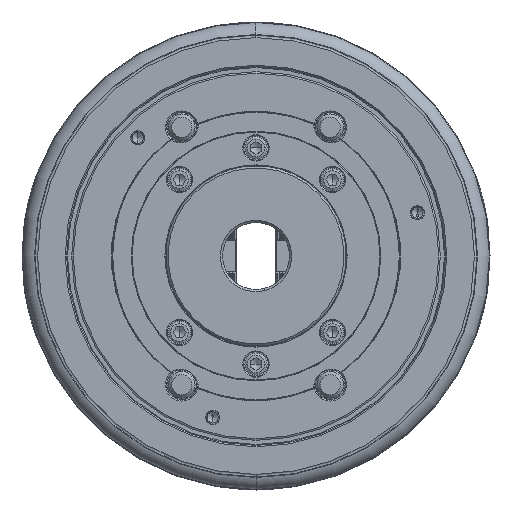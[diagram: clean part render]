
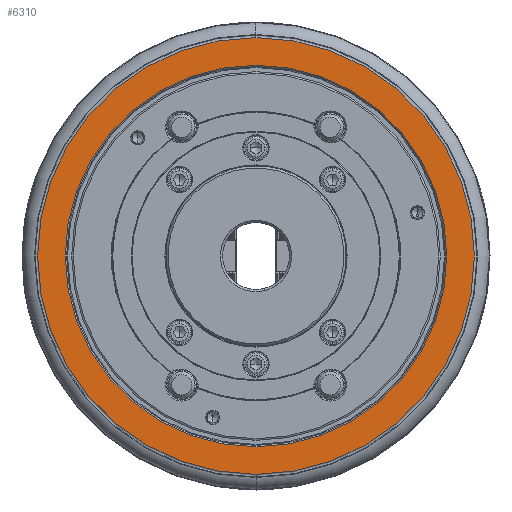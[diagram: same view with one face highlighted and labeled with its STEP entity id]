
A CAD part, left-side view. The second image highlights one B-rep face of the part: STEP entity #6310.
In plain terms, the highlighted planar face has unit normal (-1, 0, 0).
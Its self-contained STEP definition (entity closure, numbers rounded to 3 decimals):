
#6310 = ADVANCED_FACE ( 'NONE', ( #19506, #55062 ), #61520, .T. ) ;
#6592 = CARTESIAN_POINT ( 'NONE',  ( -91., 0., 0. ) ) ;
#8831 = DIRECTION ( 'NONE',  ( 0., 0., -1. ) ) ;
#10951 = EDGE_LOOP ( 'NONE', ( #62734, #59923 ) ) ;
#13460 = DIRECTION ( 'NONE',  ( -1., 0., 0. ) ) ;
#15709 = CARTESIAN_POINT ( 'NONE',  ( -91., 0., 0. ) ) ;
#17901 = DIRECTION ( 'NONE',  ( 0., 0., 1. ) ) ;
#18289 = EDGE_CURVE ( 'NONE', #32682, #24961, #43859, .T. ) ;
#18518 = CIRCLE ( 'NONE', #71435, 85.6 ) ;
#19506 = FACE_OUTER_BOUND ( 'NONE', #59340, .T. ) ;
#20838 = AXIS2_PLACEMENT_3D ( 'NONE', #44176, #13460, #17901 ) ;
#24961 = VERTEX_POINT ( 'NONE', #36379 ) ;
#28230 = DIRECTION ( 'NONE',  ( 1., 0., 0. ) ) ;
#28413 = VERTEX_POINT ( 'NONE', #49687 ) ;
#31306 = ORIENTED_EDGE ( 'NONE', *, *, #18289, .F. ) ;
#31775 = VERTEX_POINT ( 'NONE', #36024 ) ;
#32682 = VERTEX_POINT ( 'NONE', #61603 ) ;
#32698 = DIRECTION ( 'NONE',  ( 0., 0., -1. ) ) ;
#33043 = EDGE_CURVE ( 'NONE', #28413, #31775, #49072, .T. ) ;
#35903 = EDGE_CURVE ( 'NONE', #31775, #28413, #18518, .T. ) ;
#36024 = CARTESIAN_POINT ( 'NONE',  ( -91., 0., -85.6 ) ) ;
#36379 = CARTESIAN_POINT ( 'NONE',  ( -91., 0., -98. ) ) ;
#43086 = ORIENTED_EDGE ( 'NONE', *, *, #55291, .F. ) ;
#43859 = CIRCLE ( 'NONE', #54139, 98. ) ;
#44176 = CARTESIAN_POINT ( 'NONE',  ( -91., 0., -85.6 ) ) ;
#45004 = DIRECTION ( 'NONE',  ( 1., 0., 0. ) ) ;
#49072 = CIRCLE ( 'NONE', #63244, 85.6 ) ;
#49687 = CARTESIAN_POINT ( 'NONE',  ( -91., 0., 85.6 ) ) ;
#50481 = CARTESIAN_POINT ( 'NONE',  ( -91., 0., 0. ) ) ;
#54139 = AXIS2_PLACEMENT_3D ( 'NONE', #50481, #56528, #56148 ) ;
#55062 = FACE_BOUND ( 'NONE', #10951, .T. ) ;
#55291 = EDGE_CURVE ( 'NONE', #24961, #32682, #59814, .T. ) ;
#56148 = DIRECTION ( 'NONE',  ( 0., 0., -1. ) ) ;
#56528 = DIRECTION ( 'NONE',  ( 1., 0., 0. ) ) ;
#59340 = EDGE_LOOP ( 'NONE', ( #43086, #31306 ) ) ;
#59814 = CIRCLE ( 'NONE', #74093, 98. ) ;
#59923 = ORIENTED_EDGE ( 'NONE', *, *, #35903, .T. ) ;
#61520 = PLANE ( 'NONE',  #20838 ) ;
#61603 = CARTESIAN_POINT ( 'NONE',  ( -91., 0., 98. ) ) ;
#62734 = ORIENTED_EDGE ( 'NONE', *, *, #33043, .T. ) ;
#63244 = AXIS2_PLACEMENT_3D ( 'NONE', #15709, #28230, #8831 ) ;
#67634 = CARTESIAN_POINT ( 'NONE',  ( -91., 0., 0. ) ) ;
#69663 = DIRECTION ( 'NONE',  ( 0., 0., -1. ) ) ;
#71435 = AXIS2_PLACEMENT_3D ( 'NONE', #6592, #45004, #69663 ) ;
#73698 = DIRECTION ( 'NONE',  ( 1., 0., 0. ) ) ;
#74093 = AXIS2_PLACEMENT_3D ( 'NONE', #67634, #73698, #32698 ) ;
